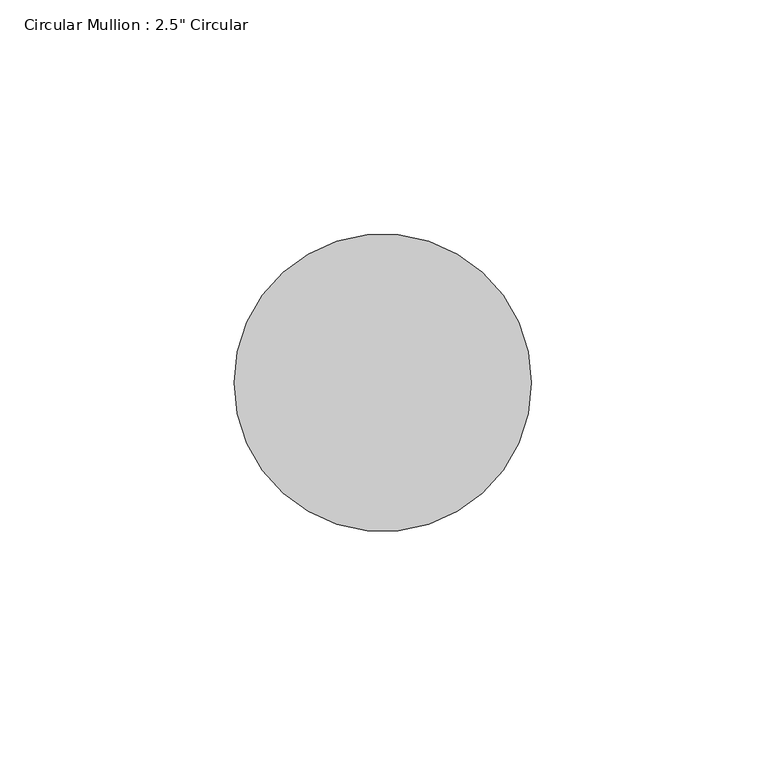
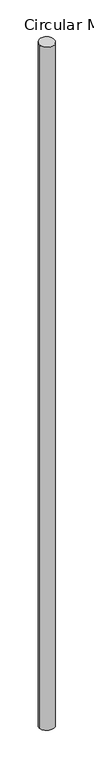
"""IFC4 building model written with IfcOpenShell, lengths in millimetres: member geometry."""

from ifc_helpers import new_model, si_unit, frame, origin, origin_with_axes, place, context, project, spatial, ellipse_curve, source, transform, mapped, element, save
from ifc_brep_helpers import plane_surface, cylinder_surface, advanced_brep


def member_8f1bf7c9(model_context):
    return source(origin(), model_context, "Body", "AdvancedBrep", [
        advanced_brep(
        [(-31.75, 0.0, 0.2453193), (31.75, 0.0, -0.2453193), (31.75, 0.0, -3048.4672684), (-31.75, 0.0, -3048.8916435)],
        [
            (0, 1, ellipse_curve(frame((0.0, 0.0, 0.0), z_axis=(-0.0077120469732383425, 0.060845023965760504, -0.9981174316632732), x_axis=(-0.12550627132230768, 0.990195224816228, 0.06133182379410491)), 31.8098843, 31.75)),
            (1, 2),
            (2, 3, ellipse_curve(frame((0.0, 0.0, -3048.679456), z_axis=(-0.006659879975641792, 0.08297231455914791, 0.9965295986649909), x_axis=(0.07973130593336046, -0.9933348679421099, 0.08323916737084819)), 31.860569, 31.75)),
            (3, 0),
            (1, 0, ellipse_curve(frame((0.0, 0.0, 0.0), z_axis=(-0.0077120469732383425, 0.060845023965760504, -0.9981174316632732), x_axis=(-0.12550627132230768, 0.990195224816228, 0.06133182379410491)), 31.8098843, 31.75)),
            (3, 2, ellipse_curve(frame((0.0, 0.0, -3048.679456), z_axis=(-0.006659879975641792, 0.08297231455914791, 0.9965295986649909), x_axis=(0.07973130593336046, -0.9933348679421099, 0.08323916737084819)), 31.860569, 31.75)),
        ],
        [
            cylinder_surface(origin_with_axes(), 31.75),
            plane_surface(frame((302.380757, 38.3264637, 0.0), z_axis=(0.0077120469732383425, -0.060845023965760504, 0.9981174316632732), x_axis=(0.12550627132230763, -0.9901952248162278, -0.06133182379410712))),
            plane_surface(frame((303.822855, 24.3867338, -3048.679456), z_axis=(0.0066598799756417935, -0.08297231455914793, -0.9965295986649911), x_axis=(0.07973130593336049, -0.9933348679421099, 0.08323916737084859))),
        ],
        [
            (0, [[1, 2, 3, 4]]),
            (0, [[5, -4, 6, -2]]),
            (1, [[-1, -5]]),
            (2, [[-6, -3]]),
        ],
    ),
    ])


if __name__ == "__main__":
    model = new_model("IFC4")
    model_context = context("Model", 3, world=origin())
    ifc_project = project(units=[si_unit("LENGTHUNIT", "METRE", prefix="MILLI")], contexts=[model_context])
    site = spatial("IfcSite", under=ifc_project)
    building = spatial("IfcBuilding", under=site)
    placement = place(None, origin())
    member_shape = member_8f1bf7c9(model_context)
    element("IfcMember", 1, ObjectType="Circular Mullion : 2.5\" Circular", at=placement, inside=building, context=model_context, shape_type="MappedRepresentation", body=[
        mapped(member_shape, transform((0.0, 0.0, 0.0), x_axis=(1.0, 0.0, 0.0), y_axis=(0.0, 1.0, 0.0), z_axis=(0.0, 0.0, 1.0))),
    ])
    save(model, "model.ifc")
